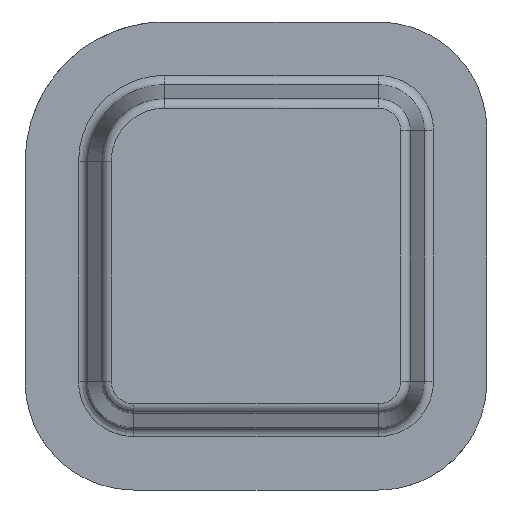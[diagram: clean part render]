
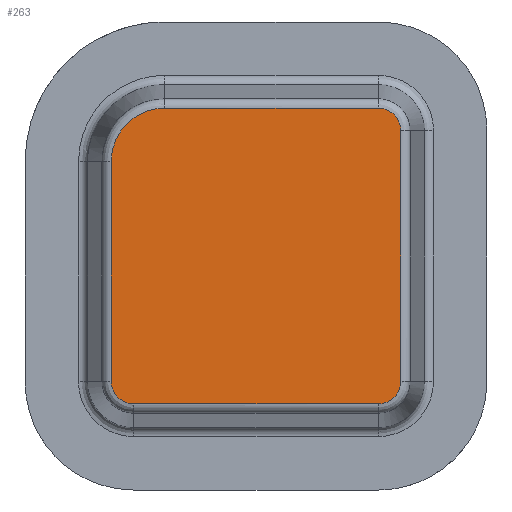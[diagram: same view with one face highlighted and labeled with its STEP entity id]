
A CAD part, front view. The second image highlights one B-rep face of the part: STEP entity #263.
In plain terms, the highlighted planar face has unit normal (0, -1, 0).
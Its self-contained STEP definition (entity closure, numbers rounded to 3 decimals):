
#144=CARTESIAN_POINT('Axis2P3D Location',(50.58,0.,49.42)) ;
#149=CARTESIAN_POINT('Line Origine',(2.749,0.,45.5)) ;
#153=CARTESIAN_POINT('Vertex',(2.749,0.,81.)) ;
#155=CARTESIAN_POINT('Vertex',(2.749,0.,10.)) ;
#159=CARTESIAN_POINT('Control Point',(2.749,0.,10.)) ;
#160=CARTESIAN_POINT('Control Point',(2.749,0.,9.038)) ;
#161=CARTESIAN_POINT('Control Point',(2.908,0.,8.076)) ;
#162=CARTESIAN_POINT('Control Point',(3.227,0.,7.152)) ;
#163=CARTESIAN_POINT('Control Point',(4.158,0.,5.442)) ;
#164=CARTESIAN_POINT('Control Point',(5.59,0.,4.123)) ;
#165=CARTESIAN_POINT('Control Point',(6.41,0.,3.589)) ;
#166=CARTESIAN_POINT('Control Point',(7.601,0.,3.071)) ;
#167=CARTESIAN_POINT('Control Point',(8.862,0.,2.828)) ;
#168=CARTESIAN_POINT('Control Point',(9.182,0.,2.785)) ;
#169=CARTESIAN_POINT('Control Point',(9.537,0.,2.756)) ;
#170=CARTESIAN_POINT('Control Point',(9.893,0.,2.75)) ;
#171=CARTESIAN_POINT('Control Point',(9.929,0.,2.749)) ;
#172=CARTESIAN_POINT('Control Point',(9.964,0.,2.749)) ;
#173=CARTESIAN_POINT('Control Point',(10.,0.,2.749)) ;
#174=CARTESIAN_POINT('Vertex',(10.,0.,2.749)) ;
#177=CARTESIAN_POINT('Line Origine',(49.5,0.,2.749)) ;
#181=CARTESIAN_POINT('Vertex',(89.,0.,2.749)) ;
#185=CARTESIAN_POINT('Control Point',(89.,0.,2.749)) ;
#186=CARTESIAN_POINT('Control Point',(89.962,0.,2.749)) ;
#187=CARTESIAN_POINT('Control Point',(90.924,0.,2.908)) ;
#188=CARTESIAN_POINT('Control Point',(91.848,0.,3.227)) ;
#189=CARTESIAN_POINT('Control Point',(93.558,0.,4.158)) ;
#190=CARTESIAN_POINT('Control Point',(94.877,0.,5.59)) ;
#191=CARTESIAN_POINT('Control Point',(95.411,0.,6.41)) ;
#192=CARTESIAN_POINT('Control Point',(95.929,0.,7.601)) ;
#193=CARTESIAN_POINT('Control Point',(96.172,0.,8.862)) ;
#194=CARTESIAN_POINT('Control Point',(96.215,0.,9.182)) ;
#195=CARTESIAN_POINT('Control Point',(96.244,0.,9.537)) ;
#196=CARTESIAN_POINT('Control Point',(96.25,0.,9.893)) ;
#197=CARTESIAN_POINT('Control Point',(96.251,0.,9.929)) ;
#198=CARTESIAN_POINT('Control Point',(96.251,0.,9.964)) ;
#199=CARTESIAN_POINT('Control Point',(96.251,0.,10.)) ;
#200=CARTESIAN_POINT('Vertex',(96.251,0.,10.)) ;
#203=CARTESIAN_POINT('Line Origine',(96.251,0.,50.5)) ;
#207=CARTESIAN_POINT('Vertex',(96.251,0.,91.)) ;
#211=CARTESIAN_POINT('Control Point',(96.251,0.,91.)) ;
#212=CARTESIAN_POINT('Control Point',(96.251,0.,91.962)) ;
#213=CARTESIAN_POINT('Control Point',(96.092,0.,92.924)) ;
#214=CARTESIAN_POINT('Control Point',(95.773,0.,93.848)) ;
#215=CARTESIAN_POINT('Control Point',(94.842,0.,95.558)) ;
#216=CARTESIAN_POINT('Control Point',(93.41,0.,96.877)) ;
#217=CARTESIAN_POINT('Control Point',(92.59,0.,97.411)) ;
#218=CARTESIAN_POINT('Control Point',(91.399,0.,97.929)) ;
#219=CARTESIAN_POINT('Control Point',(90.138,0.,98.172)) ;
#220=CARTESIAN_POINT('Control Point',(89.818,0.,98.215)) ;
#221=CARTESIAN_POINT('Control Point',(89.463,0.,98.244)) ;
#222=CARTESIAN_POINT('Control Point',(89.107,0.,98.25)) ;
#223=CARTESIAN_POINT('Control Point',(89.071,0.,98.251)) ;
#224=CARTESIAN_POINT('Control Point',(89.036,0.,98.251)) ;
#225=CARTESIAN_POINT('Control Point',(89.,0.,98.251)) ;
#226=CARTESIAN_POINT('Vertex',(89.,0.,98.251)) ;
#229=CARTESIAN_POINT('Line Origine',(54.5,0.,98.251)) ;
#233=CARTESIAN_POINT('Vertex',(20.,0.,98.251)) ;
#237=CARTESIAN_POINT('Control Point',(20.,0.,98.251)) ;
#238=CARTESIAN_POINT('Control Point',(18.077,0.,98.251)) ;
#239=CARTESIAN_POINT('Control Point',(16.153,0.,97.983)) ;
#240=CARTESIAN_POINT('Control Point',(14.282,0.,97.447)) ;
#241=CARTESIAN_POINT('Control Point',(10.736,0.,95.869)) ;
#242=CARTESIAN_POINT('Control Point',(7.757,0.,93.382)) ;
#243=CARTESIAN_POINT('Control Point',(6.451,0.,91.937)) ;
#244=CARTESIAN_POINT('Control Point',(4.493,0.,89.044)) ;
#245=CARTESIAN_POINT('Control Point',(3.313,0.,85.766)) ;
#246=CARTESIAN_POINT('Control Point',(2.954,0.,84.257)) ;
#247=CARTESIAN_POINT('Control Point',(2.762,0.,82.684)) ;
#248=CARTESIAN_POINT('Control Point',(2.749,0.,81.108)) ;
#249=CARTESIAN_POINT('Control Point',(2.749,0.,81.072)) ;
#250=CARTESIAN_POINT('Control Point',(2.749,0.,81.036)) ;
#251=CARTESIAN_POINT('Control Point',(2.749,0.,81.)) ;
#145=DIRECTION('Axis2P3D Direction',(0.,-1.,0.)) ;
#146=DIRECTION('Axis2P3D XDirection',(0.576,0.,0.817)) ;
#150=DIRECTION('Vector Direction',(0.,0.,1.)) ;
#178=DIRECTION('Vector Direction',(1.,0.,0.)) ;
#204=DIRECTION('Vector Direction',(0.,0.,1.)) ;
#230=DIRECTION('Vector Direction',(-1.,0.,0.)) ;
#147=AXIS2_PLACEMENT_3D('Plane Axis2P3D',#144,#145,#146) ;
#254=ORIENTED_EDGE('',*,*,#157,.T.) ;
#255=ORIENTED_EDGE('',*,*,#176,.T.) ;
#256=ORIENTED_EDGE('',*,*,#183,.T.) ;
#257=ORIENTED_EDGE('',*,*,#202,.T.) ;
#258=ORIENTED_EDGE('',*,*,#209,.T.) ;
#259=ORIENTED_EDGE('',*,*,#228,.T.) ;
#260=ORIENTED_EDGE('',*,*,#235,.T.) ;
#261=ORIENTED_EDGE('',*,*,#252,.T.) ;
#151=VECTOR('Line Direction',#150,1.) ;
#179=VECTOR('Line Direction',#178,1.) ;
#205=VECTOR('Line Direction',#204,1.) ;
#231=VECTOR('Line Direction',#230,1.) ;
#263=ADVANCED_FACE('base',(#262),#148,.T.) ;
#158=B_SPLINE_CURVE_WITH_KNOTS('',5,(#159,#160,#161,#162,#163,#164,#165,#166,#167,#168,#169,#170,#171,#172,#173),.UNSPECIFIED.,.F.,.U.,(6,3,3,3,6),(24.93,34.674,44.424,47.673,48.033),.UNSPECIFIED.) ;
#184=B_SPLINE_CURVE_WITH_KNOTS('',5,(#185,#186,#187,#188,#189,#190,#191,#192,#193,#194,#195,#196,#197,#198,#199),.UNSPECIFIED.,.F.,.U.,(6,3,3,3,6),(24.929,34.674,44.424,47.673,48.033),.UNSPECIFIED.) ;
#210=B_SPLINE_CURVE_WITH_KNOTS('',5,(#211,#212,#213,#214,#215,#216,#217,#218,#219,#220,#221,#222,#223,#224,#225),.UNSPECIFIED.,.F.,.U.,(6,3,3,3,6),(24.929,34.674,44.423,47.673,48.033),.UNSPECIFIED.) ;
#236=B_SPLINE_CURVE_WITH_KNOTS('',5,(#237,#238,#239,#240,#241,#242,#243,#244,#245,#246,#247,#248,#249,#250,#251),.UNSPECIFIED.,.F.,.U.,(6,3,3,3,6),(36.881,52.76,68.658,81.368,81.666),.UNSPECIFIED.) ;
#157=EDGE_CURVE('',#154,#156,#152,.F.) ;
#176=EDGE_CURVE('',#156,#175,#158,.T.) ;
#183=EDGE_CURVE('',#175,#182,#180,.T.) ;
#202=EDGE_CURVE('',#182,#201,#184,.T.) ;
#209=EDGE_CURVE('',#201,#208,#206,.T.) ;
#228=EDGE_CURVE('',#208,#227,#210,.T.) ;
#235=EDGE_CURVE('',#227,#234,#232,.T.) ;
#252=EDGE_CURVE('',#234,#154,#236,.T.) ;
#253=EDGE_LOOP('',(#254,#255,#256,#257,#258,#259,#260,#261)) ;
#262=FACE_OUTER_BOUND('',#253,.T.) ;
#152=LINE('Line',#149,#151) ;
#180=LINE('Line',#177,#179) ;
#206=LINE('Line',#203,#205) ;
#232=LINE('Line',#229,#231) ;
#148=PLANE('',#147) ;
#154=VERTEX_POINT('',#153) ;
#156=VERTEX_POINT('',#155) ;
#175=VERTEX_POINT('',#174) ;
#182=VERTEX_POINT('',#181) ;
#201=VERTEX_POINT('',#200) ;
#208=VERTEX_POINT('',#207) ;
#227=VERTEX_POINT('',#226) ;
#234=VERTEX_POINT('',#233) ;
